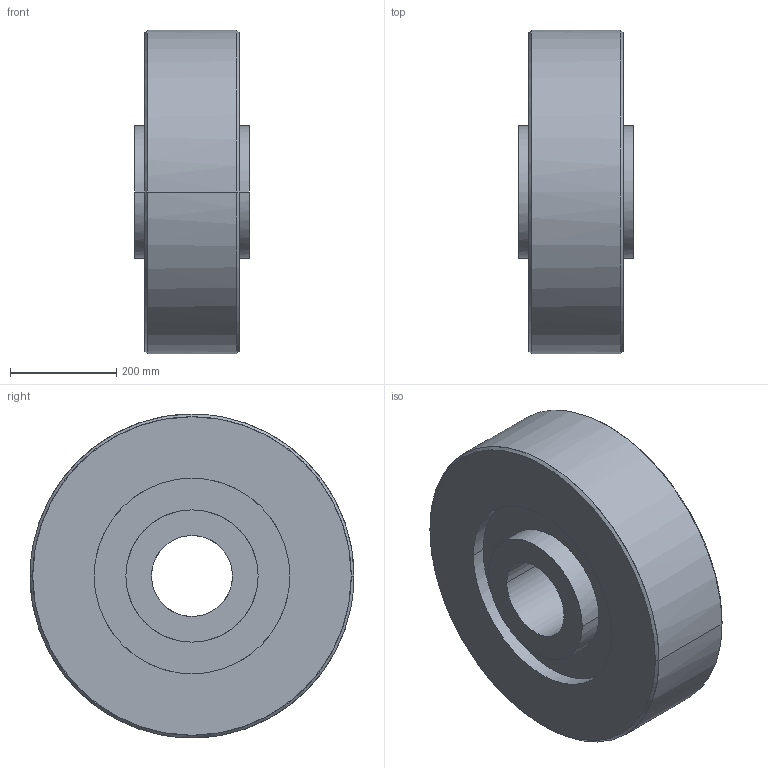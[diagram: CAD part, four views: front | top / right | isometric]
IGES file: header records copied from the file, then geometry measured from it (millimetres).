
Global section: native system: Kubotek KeyCreator; preprocessor: KCM Version 1.1.1442.0; author: KeyCreator User; organization: Self; date: 20170713.014443; units: inch
Bounding box: 215.9 x 609.6 x 609.6 mm (x, y, z)
Surface area: 1108347.4 mm2 (no closed solid volume)
Topology: 0 solids, 0 shells, 22 faces, 144 edges, 144 vertices
Faces by surface type: bspline 22
